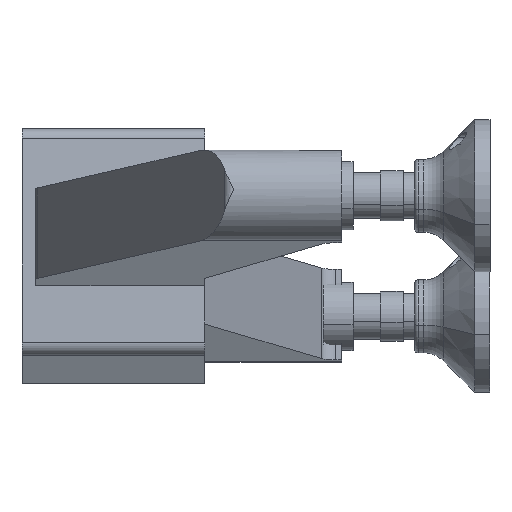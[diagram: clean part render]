
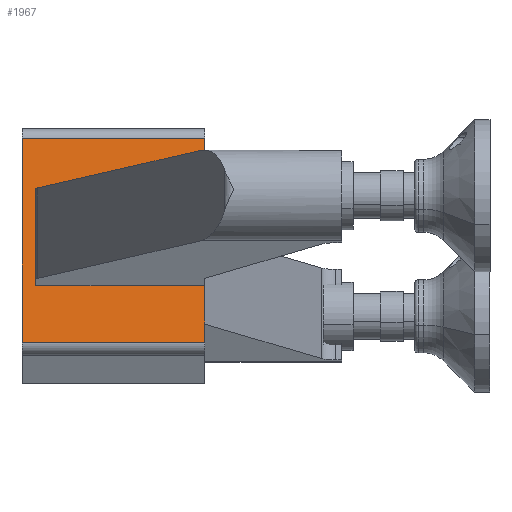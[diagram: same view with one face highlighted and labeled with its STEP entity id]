
A CAD part, left-side view. The second image highlights one B-rep face of the part: STEP entity #1967.
In plain terms, the highlighted planar face has unit normal (-0.991, 0, 0.137).
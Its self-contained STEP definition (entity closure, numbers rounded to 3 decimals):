
#15 = VERTEX_POINT ( 'NONE', #986 ) ;
#20 = EDGE_CURVE ( 'NONE', #600, #885, #2367, .T. ) ;
#42 = ORIENTED_EDGE ( 'NONE', *, *, #2663, .T. ) ;
#111 = DIRECTION ( 'NONE',  ( 0., -1., 0. ) ) ;
#124 = CARTESIAN_POINT ( 'NONE',  ( 5.627, 112.183, -84.595 ) ) ;
#132 = ORIENTED_EDGE ( 'NONE', *, *, #2318, .T. ) ;
#143 = VECTOR ( 'NONE', #2171, 1000. ) ;
#167 = VECTOR ( 'NONE', #2027, 1000. ) ;
#212 = VERTEX_POINT ( 'NONE', #1749 ) ;
#255 = ORIENTED_EDGE ( 'NONE', *, *, #20, .T. ) ;
#306 = CARTESIAN_POINT ( 'NONE',  ( 2.205, 38.183, -109.36 ) ) ;
#407 = CARTESIAN_POINT ( 'NONE',  ( 11.103, 38.183, -44.971 ) ) ;
#447 = VECTOR ( 'NONE', #1210, 1000. ) ;
#494 = CARTESIAN_POINT ( 'NONE',  ( 8.365, 38.183, -64.783 ) ) ;
#520 = FACE_OUTER_BOUND ( 'NONE', #2387, .T. ) ;
#548 = CARTESIAN_POINT ( 'NONE',  ( 14.525, 118.183, -20.207 ) ) ;
#556 = EDGE_CURVE ( 'NONE', #2606, #2140, #2500, .T. ) ;
#600 = VERTEX_POINT ( 'NONE', #2221 ) ;
#671 = DIRECTION ( 'NONE',  ( 0., -1., 0. ) ) ;
#696 = VECTOR ( 'NONE', #1207, 1000. ) ;
#761 = VECTOR ( 'NONE', #671, 1000. ) ;
#824 = LINE ( 'NONE', #494, #167 ) ;
#836 = EDGE_CURVE ( 'NONE', #2712, #1361, #1286, .T. ) ;
#885 = VERTEX_POINT ( 'NONE', #2720 ) ;
#986 = CARTESIAN_POINT ( 'NONE',  ( 14.525, 118.183, -20.207 ) ) ;
#1019 = ORIENTED_EDGE ( 'NONE', *, *, #1877, .T. ) ;
#1207 = DIRECTION ( 'NONE',  ( 0., 1., 0. ) ) ;
#1210 = DIRECTION ( 'NONE',  ( 0., -1., 0. ) ) ;
#1227 = CARTESIAN_POINT ( 'NONE',  ( 14.525, 38.183, -20.207 ) ) ;
#1248 = LINE ( 'NONE', #1958, #1835 ) ;
#1260 = PLANE ( 'NONE',  #1856 ) ;
#1286 = LINE ( 'NONE', #2303, #2170 ) ;
#1311 = LINE ( 'NONE', #548, #2757 ) ;
#1325 = ORIENTED_EDGE ( 'NONE', *, *, #836, .T. ) ;
#1361 = VERTEX_POINT ( 'NONE', #407 ) ;
#1448 = EDGE_CURVE ( 'NONE', #212, #1361, #2230, .T. ) ;
#1523 = DIRECTION ( 'NONE',  ( 0.137, 0., 0.991 ) ) ;
#1613 = EDGE_CURVE ( 'NONE', #2140, #885, #824, .T. ) ;
#1682 = CARTESIAN_POINT ( 'NONE',  ( 14.525, 38.183, -20.207 ) ) ;
#1686 = DIRECTION ( 'NONE',  ( 0., 1., 0. ) ) ;
#1730 = LINE ( 'NONE', #1227, #696 ) ;
#1749 = CARTESIAN_POINT ( 'NONE',  ( 14.525, 38.183, -20.207 ) ) ;
#1835 = VECTOR ( 'NONE', #1523, 1000. ) ;
#1856 = AXIS2_PLACEMENT_3D ( 'NONE', #1682, #2309, #1686 ) ;
#1877 = EDGE_CURVE ( 'NONE', #15, #600, #1311, .T. ) ;
#1892 = CARTESIAN_POINT ( 'NONE',  ( 5.627, 38.183, -84.595 ) ) ;
#1958 = CARTESIAN_POINT ( 'NONE',  ( 14.525, 112.183, -20.207 ) ) ;
#1967 = ADVANCED_FACE ( 'NONE', ( #520 ), #1260, .T. ) ;
#1973 = ORIENTED_EDGE ( 'NONE', *, *, #1613, .F. ) ;
#2027 = DIRECTION ( 'NONE',  ( -0.137, 0., -0.991 ) ) ;
#2140 = VERTEX_POINT ( 'NONE', #1892 ) ;
#2170 = VECTOR ( 'NONE', #111, 1000. ) ;
#2171 = DIRECTION ( 'NONE',  ( -0.137, 0., -0.991 ) ) ;
#2212 = CARTESIAN_POINT ( 'NONE',  ( 5.627, 36.831, -84.595 ) ) ;
#2221 = CARTESIAN_POINT ( 'NONE',  ( 2.205, 118.183, -109.36 ) ) ;
#2230 = LINE ( 'NONE', #2813, #143 ) ;
#2271 = CARTESIAN_POINT ( 'NONE',  ( 11.103, 112.183, -44.971 ) ) ;
#2278 = DIRECTION ( 'NONE',  ( -0.137, 0., -0.991 ) ) ;
#2303 = CARTESIAN_POINT ( 'NONE',  ( 11.103, 38.183, -44.971 ) ) ;
#2309 = DIRECTION ( 'NONE',  ( -0.991, 0., 0.137 ) ) ;
#2318 = EDGE_CURVE ( 'NONE', #2606, #2712, #1248, .T. ) ;
#2367 = LINE ( 'NONE', #306, #447 ) ;
#2387 = EDGE_LOOP ( 'NONE', ( #255, #1973, #2703, #132, #1325, #2634, #42, #1019 ) ) ;
#2500 = LINE ( 'NONE', #2212, #761 ) ;
#2606 = VERTEX_POINT ( 'NONE', #124 ) ;
#2634 = ORIENTED_EDGE ( 'NONE', *, *, #1448, .F. ) ;
#2663 = EDGE_CURVE ( 'NONE', #212, #15, #1730, .T. ) ;
#2703 = ORIENTED_EDGE ( 'NONE', *, *, #556, .F. ) ;
#2712 = VERTEX_POINT ( 'NONE', #2271 ) ;
#2720 = CARTESIAN_POINT ( 'NONE',  ( 2.205, 38.183, -109.36 ) ) ;
#2757 = VECTOR ( 'NONE', #2278, 1000. ) ;
#2813 = CARTESIAN_POINT ( 'NONE',  ( 8.365, 38.183, -64.783 ) ) ;
